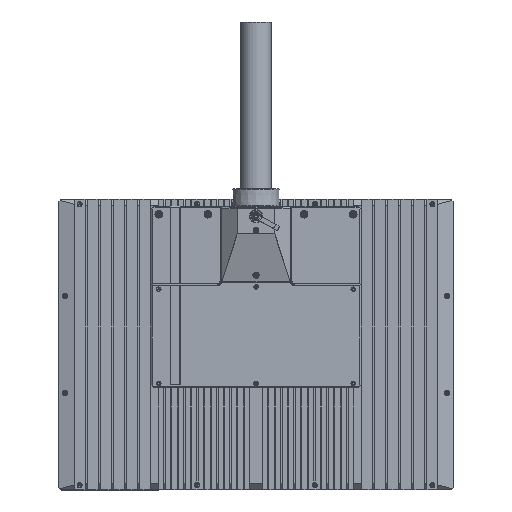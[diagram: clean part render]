
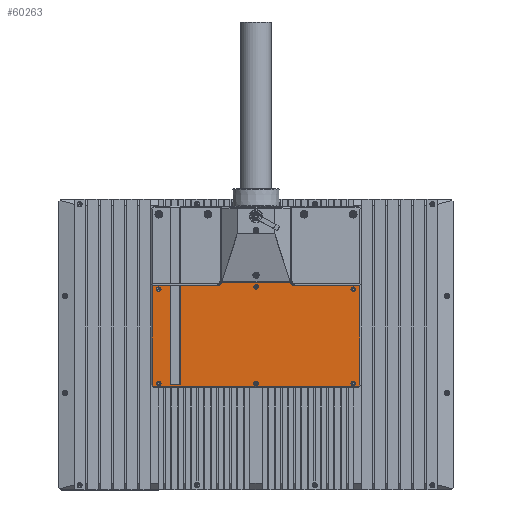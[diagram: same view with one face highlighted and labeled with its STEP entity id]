
A CAD part, top view. The second image highlights one B-rep face of the part: STEP entity #60263.
In plain terms, the highlighted planar face has unit normal (0, 0, 1).
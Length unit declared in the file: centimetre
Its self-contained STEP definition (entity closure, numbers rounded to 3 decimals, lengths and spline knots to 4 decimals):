
#40954=CARTESIAN_POINT('',(-11.75,9.13,12.79));
#40955=VERTEX_POINT('',#40954);
#40956=CARTESIAN_POINT('',(-11.75,-6.15,12.79));
#40957=VERTEX_POINT('',#40956);
#40958=CARTESIAN_POINT('',(-11.75,9.13,12.79));
#40959=DIRECTION('',(0.,-1.0,0.0));
#40960=VECTOR('',#40959,15.28);
#40961=LINE('',#40958,#40960);
#40962=EDGE_CURVE('',#40955,#40957,#40961,.T.);
#41103=CARTESIAN_POINT('',(-14.7,8.55,12.79));
#41104=VERTEX_POINT('',#41103);
#41105=CARTESIAN_POINT('',(-15.05,8.55,12.79));
#41106=DIRECTION('',(0.,0.,-1.0));
#41107=DIRECTION('',(1.0,0.,0.));
#41108=AXIS2_PLACEMENT_3D('',#41105,#41106,#41107);
#41109=CIRCLE('',#41108,0.35);
#41110=EDGE_CURVE('',#41104,#41104,#41109,.T.);
#59895=CARTESIAN_POINT('',(0.35,8.9,12.79));
#59896=VERTEX_POINT('',#59895);
#59897=CARTESIAN_POINT('',(0.,8.9,12.79));
#59898=DIRECTION('',(0.,0.,-1.0));
#59899=DIRECTION('',(1.0,0.,0.));
#59900=AXIS2_PLACEMENT_3D('',#59897,#59898,#59899);
#59901=CIRCLE('',#59900,0.35);
#59902=EDGE_CURVE('',#59896,#59896,#59901,.T.);
#59923=CARTESIAN_POINT('',(-14.7,-6.05,12.79));
#59924=VERTEX_POINT('',#59923);
#59925=CARTESIAN_POINT('',(-15.05,-6.05,12.79));
#59926=DIRECTION('',(0.,0.,-1.0));
#59927=DIRECTION('',(1.0,0.,0.));
#59928=AXIS2_PLACEMENT_3D('',#59925,#59926,#59927);
#59929=CIRCLE('',#59928,0.35);
#59930=EDGE_CURVE('',#59924,#59924,#59929,.T.);
#59951=CARTESIAN_POINT('',(0.35,-6.05,12.79));
#59952=VERTEX_POINT('',#59951);
#59953=CARTESIAN_POINT('',(0.,-6.05,12.79));
#59954=DIRECTION('',(0.,0.,-1.0));
#59955=DIRECTION('',(1.0,0.,0.));
#59956=AXIS2_PLACEMENT_3D('',#59953,#59954,#59955);
#59957=CIRCLE('',#59956,0.35);
#59958=EDGE_CURVE('',#59952,#59952,#59957,.T.);
#60028=CARTESIAN_POINT('',(-16.05,9.13,12.79));
#60029=VERTEX_POINT('',#60028);
#60050=CARTESIAN_POINT('',(-13.25,9.13,12.79));
#60051=VERTEX_POINT('',#60050);
#60067=CARTESIAN_POINT('',(-16.05,9.13,12.79));
#60068=DIRECTION('',(1.0,0.,0.0));
#60069=VECTOR('',#60068,2.8);
#60070=LINE('',#60067,#60069);
#60071=EDGE_CURVE('',#60029,#60051,#60070,.T.);
#60098=CARTESIAN_POINT('',(-13.25,-6.15,12.79));
#60099=VERTEX_POINT('',#60098);
#60100=CARTESIAN_POINT('',(-13.25,-6.15,12.79));
#60101=DIRECTION('',(0.,1.0,0.0));
#60102=VECTOR('',#60101,15.28);
#60103=LINE('',#60100,#60102);
#60104=EDGE_CURVE('',#60099,#60051,#60103,.T.);
#60115=CARTESIAN_POINT('',(0.,1.25,12.79));
#60116=DIRECTION('',(0.0,0.0,-1.0));
#60117=DIRECTION('',(-1.0,0.,0.0));
#60118=AXIS2_PLACEMENT_3D('',#60115,#60116,#60117);
#60119=PLANE('',#60118);
#60120=CARTESIAN_POINT('',(-5.9538,9.13,12.79));
#60121=VERTEX_POINT('',#60120);
#60122=CARTESIAN_POINT('',(-11.75,9.13,12.79));
#60123=DIRECTION('',(1.0,0.,0.0));
#60124=VECTOR('',#60123,5.7962);
#60125=LINE('',#60122,#60124);
#60126=EDGE_CURVE('',#40955,#60121,#60125,.T.);
#60127=ORIENTED_EDGE('',*,*,#60126,.F.);
#60128=ORIENTED_EDGE('',*,*,#40962,.T.);
#60129=CARTESIAN_POINT('',(-11.85,-6.25,12.79));
#60130=VERTEX_POINT('',#60129);
#60131=CARTESIAN_POINT('',(-11.85,-6.15,12.79));
#60132=DIRECTION('',(0.,0.,-1.0));
#60133=DIRECTION('',(0.,1.0,0.));
#60134=AXIS2_PLACEMENT_3D('',#60131,#60132,#60133);
#60135=CIRCLE('',#60134,0.1);
#60136=EDGE_CURVE('',#40957,#60130,#60135,.T.);
#60137=ORIENTED_EDGE('',*,*,#60136,.T.);
#60138=CARTESIAN_POINT('',(-13.15,-6.25,12.79));
#60139=VERTEX_POINT('',#60138);
#60140=CARTESIAN_POINT('',(-11.85,-6.25,12.79));
#60141=DIRECTION('',(-1.0,0.,0.0));
#60142=VECTOR('',#60141,1.3);
#60143=LINE('',#60140,#60142);
#60144=EDGE_CURVE('',#60130,#60139,#60143,.T.);
#60145=ORIENTED_EDGE('',*,*,#60144,.T.);
#60146=CARTESIAN_POINT('',(-13.15,-6.15,12.79));
#60147=DIRECTION('',(0.,0.,-1.0));
#60148=DIRECTION('',(1.0,0.,0.));
#60149=AXIS2_PLACEMENT_3D('',#60146,#60147,#60148);
#60150=CIRCLE('',#60149,0.1);
#60151=EDGE_CURVE('',#60139,#60099,#60150,.T.);
#60152=ORIENTED_EDGE('',*,*,#60151,.T.);
#60153=ORIENTED_EDGE('',*,*,#60104,.T.);
#60154=ORIENTED_EDGE('',*,*,#60071,.F.);
#60155=CARTESIAN_POINT('',(-16.05,-6.1872,12.79));
#60156=VERTEX_POINT('',#60155);
#60157=CARTESIAN_POINT('',(-16.05,-6.1872,12.79));
#60158=DIRECTION('',(0.,1.0,0.0));
#60159=VECTOR('',#60158,15.3172);
#60160=LINE('',#60157,#60159);
#60161=EDGE_CURVE('',#60156,#60029,#60160,.T.);
#60162=ORIENTED_EDGE('',*,*,#60161,.F.);
#60163=CARTESIAN_POINT('',(-15.7872,-6.45,12.79));
#60164=VERTEX_POINT('',#60163);
#60165=CARTESIAN_POINT('',(-15.7872,-6.45,12.79));
#60166=DIRECTION('',(-0.707,0.707,0.0));
#60167=VECTOR('',#60166,0.3717);
#60168=LINE('',#60165,#60167);
#60169=EDGE_CURVE('',#60164,#60156,#60168,.T.);
#60170=ORIENTED_EDGE('',*,*,#60169,.F.);
#60171=CARTESIAN_POINT('',(15.7872,-6.45,12.79));
#60172=VERTEX_POINT('',#60171);
#60173=CARTESIAN_POINT('',(15.7872,-6.45,12.79));
#60174=DIRECTION('',(-1.0,0.,0.0));
#60175=VECTOR('',#60174,31.5743);
#60176=LINE('',#60173,#60175);
#60177=EDGE_CURVE('',#60172,#60164,#60176,.T.);
#60178=ORIENTED_EDGE('',*,*,#60177,.F.);
#60179=CARTESIAN_POINT('',(16.05,-6.1872,12.79));
#60180=VERTEX_POINT('',#60179);
#60181=CARTESIAN_POINT('',(16.05,-6.1872,12.79));
#60182=DIRECTION('',(-0.707,-0.707,0.0));
#60183=VECTOR('',#60182,0.3717);
#60184=LINE('',#60181,#60183);
#60185=EDGE_CURVE('',#60180,#60172,#60184,.T.);
#60186=ORIENTED_EDGE('',*,*,#60185,.F.);
#60187=CARTESIAN_POINT('',(16.05,9.13,12.79));
#60188=VERTEX_POINT('',#60187);
#60189=CARTESIAN_POINT('',(16.05,9.13,12.79));
#60190=DIRECTION('',(0.,-1.0,0.0));
#60191=VECTOR('',#60190,15.3172);
#60192=LINE('',#60189,#60191);
#60193=EDGE_CURVE('',#60188,#60180,#60192,.T.);
#60194=ORIENTED_EDGE('',*,*,#60193,.F.);
#60195=CARTESIAN_POINT('',(5.9538,9.13,12.79));
#60196=VERTEX_POINT('',#60195);
#60197=CARTESIAN_POINT('',(5.9538,9.13,12.79));
#60198=DIRECTION('',(1.0,0.,0.0));
#60199=VECTOR('',#60198,10.0962);
#60200=LINE('',#60197,#60199);
#60201=EDGE_CURVE('',#60196,#60188,#60200,.T.);
#60202=ORIENTED_EDGE('',*,*,#60201,.F.);
#60203=CARTESIAN_POINT('',(5.2786,9.6,12.79));
#60204=VERTEX_POINT('',#60203);
#60205=CARTESIAN_POINT('',(5.9538,9.85,12.79));
#60206=DIRECTION('',(0.,0.,1.0));
#60207=DIRECTION('',(-0.934,-0.357,0.));
#60208=AXIS2_PLACEMENT_3D('',#60205,#60206,#60207);
#60209=CIRCLE('',#60208,0.72);
#60210=EDGE_CURVE('',#60204,#60196,#60209,.T.);
#60211=ORIENTED_EDGE('',*,*,#60210,.F.);
#60212=CARTESIAN_POINT('',(-5.2786,9.6,12.79));
#60213=VERTEX_POINT('',#60212);
#60214=CARTESIAN_POINT('',(5.2786,9.6,12.79));
#60215=DIRECTION('',(-1.0,0.,0.0));
#60216=VECTOR('',#60215,10.5573);
#60217=LINE('',#60214,#60216);
#60218=EDGE_CURVE('',#60204,#60213,#60217,.T.);
#60219=ORIENTED_EDGE('',*,*,#60218,.T.);
#60220=CARTESIAN_POINT('',(-5.9538,9.85,12.79));
#60221=DIRECTION('',(0.,0.,1.0));
#60222=DIRECTION('',(0.934,-0.357,0.));
#60223=AXIS2_PLACEMENT_3D('',#60220,#60221,#60222);
#60224=CIRCLE('',#60223,0.72);
#60225=EDGE_CURVE('',#60121,#60213,#60224,.T.);
#60226=ORIENTED_EDGE('',*,*,#60225,.F.);
#60227=EDGE_LOOP('',(#60127,#60128,#60137,#60145,#60152,#60153,#60154,#60162,#60170,#60178,#60186,#60194,#60202,#60211,#60219,#60226));
#60228=FACE_OUTER_BOUND('',#60227,.T.);
#60229=CARTESIAN_POINT('',(14.7,8.55,12.79));
#60230=VERTEX_POINT('',#60229);
#60231=CARTESIAN_POINT('',(15.05,8.55,12.79));
#60232=DIRECTION('',(0.,0.,-1.0));
#60233=DIRECTION('',(-1.0,0.,0.));
#60234=AXIS2_PLACEMENT_3D('',#60231,#60232,#60233);
#60235=CIRCLE('',#60234,0.35);
#60236=EDGE_CURVE('',#60230,#60230,#60235,.T.);
#60237=ORIENTED_EDGE('',*,*,#60236,.T.);
#60238=EDGE_LOOP('',(#60237));
#60239=FACE_BOUND('',#60238,.T.);
#60240=CARTESIAN_POINT('',(15.4,-6.05,12.79));
#60241=VERTEX_POINT('',#60240);
#60242=CARTESIAN_POINT('',(15.05,-6.05,12.79));
#60243=DIRECTION('',(0.,0.,-1.0));
#60244=DIRECTION('',(-1.0,0.,0.));
#60245=AXIS2_PLACEMENT_3D('',#60242,#60243,#60244);
#60246=CIRCLE('',#60245,0.35);
#60247=EDGE_CURVE('',#60241,#60241,#60246,.T.);
#60248=ORIENTED_EDGE('',*,*,#60247,.T.);
#60249=EDGE_LOOP('',(#60248));
#60250=FACE_BOUND('',#60249,.T.);
#60251=ORIENTED_EDGE('',*,*,#59902,.T.);
#60252=EDGE_LOOP('',(#60251));
#60253=FACE_BOUND('',#60252,.T.);
#60254=ORIENTED_EDGE('',*,*,#59930,.T.);
#60255=EDGE_LOOP('',(#60254));
#60256=FACE_BOUND('',#60255,.T.);
#60257=ORIENTED_EDGE('',*,*,#59958,.T.);
#60258=EDGE_LOOP('',(#60257));
#60259=FACE_BOUND('',#60258,.T.);
#60260=ORIENTED_EDGE('',*,*,#41110,.T.);
#60261=EDGE_LOOP('',(#60260));
#60262=FACE_BOUND('',#60261,.T.);
#60263=ADVANCED_FACE('',(#60228,#60239,#60250,#60253,#60256,#60259,#60262),#60119,.F.);
